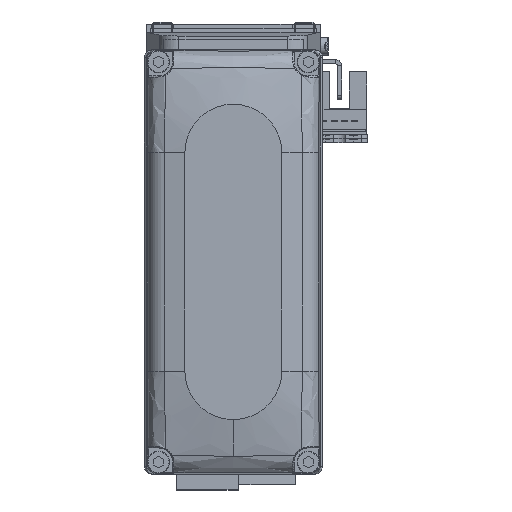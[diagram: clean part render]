
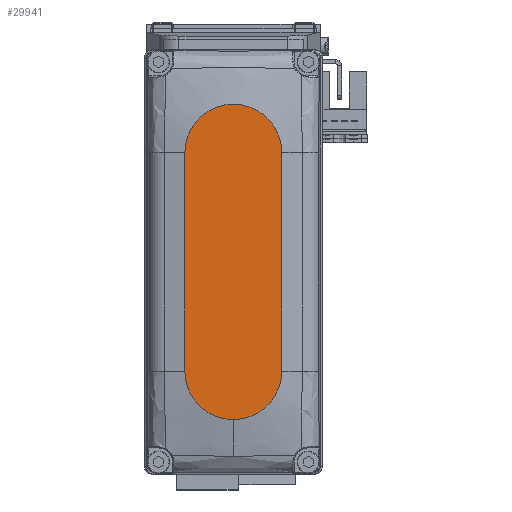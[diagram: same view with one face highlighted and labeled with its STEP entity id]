
A CAD part, top view. The second image highlights one B-rep face of the part: STEP entity #29941.
In plain terms, the highlighted planar face has unit normal (0, 0, 1).
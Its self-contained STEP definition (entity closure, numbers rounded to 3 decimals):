
#998 = CIRCLE ( 'NONE', #23631, 12. ) ;
#1161 = DIRECTION ( 'NONE',  ( 1., 0., 0. ) ) ;
#1725 = AXIS2_PLACEMENT_3D ( 'NONE', #16550, #28883, #1161 ) ;
#2232 = AXIS2_PLACEMENT_3D ( 'NONE', #3722, #16062, #28399 ) ;
#2779 = AXIS2_PLACEMENT_3D ( 'NONE', #18756, #31095, #3379 ) ;
#3379 = DIRECTION ( 'NONE',  ( 1., 0., 0. ) ) ;
#3550 = ORIENTED_EDGE ( 'NONE', *, *, #33803, .T. ) ;
#3722 = CARTESIAN_POINT ( 'NONE',  ( 0., 0., 25. ) ) ;
#4266 = LINE ( 'NONE', #16609, #15287 ) ;
#5441 = CARTESIAN_POINT ( 'NONE',  ( 27., 12., 25. ) ) ;
#6303 = ORIENTED_EDGE ( 'NONE', *, *, #27208, .T. ) ;
#7059 = CARTESIAN_POINT ( 'NONE',  ( 27., -12., 25. ) ) ;
#7608 = DIRECTION ( 'NONE',  ( 0., 0., 1. ) ) ;
#7611 = ORIENTED_EDGE ( 'NONE', *, *, #28136, .T. ) ;
#8633 = LINE ( 'NONE', #20985, #30778 ) ;
#12175 = EDGE_LOOP ( 'NONE', ( #3550, #34932, #7611, #6303, #17281 ) ) ;
#12835 = VERTEX_POINT ( 'NONE', #5441 ) ;
#15287 = VECTOR ( 'NONE', #28936, 1000. ) ;
#16062 = DIRECTION ( 'NONE',  ( 0., 0., 1. ) ) ;
#16550 = CARTESIAN_POINT ( 'NONE',  ( 27., 0., 25. ) ) ;
#16609 = CARTESIAN_POINT ( 'NONE',  ( -27., 12., 25. ) ) ;
#17281 = ORIENTED_EDGE ( 'NONE', *, *, #36662, .T. ) ;
#18756 = CARTESIAN_POINT ( 'NONE',  ( -27., 0., 25. ) ) ;
#19108 = FACE_OUTER_BOUND ( 'NONE', #12175, .T. ) ;
#19172 = CIRCLE ( 'NONE', #1725, 12. ) ;
#19248 = CARTESIAN_POINT ( 'NONE',  ( -27., -12., 25. ) ) ;
#19625 = VERTEX_POINT ( 'NONE', #31719 ) ;
#19942 = DIRECTION ( 'NONE',  ( 1., 0., 0. ) ) ;
#20246 = CIRCLE ( 'NONE', #2779, 12. ) ;
#20985 = CARTESIAN_POINT ( 'NONE',  ( -27., -12., 25. ) ) ;
#22369 = EDGE_CURVE ( 'NONE', #19625, #29134, #20246, .T. ) ;
#23631 = AXIS2_PLACEMENT_3D ( 'NONE', #35310, #7608, #19942 ) ;
#25756 = CARTESIAN_POINT ( 'NONE',  ( 39., 0., 25. ) ) ;
#27208 = EDGE_CURVE ( 'NONE', #39389, #28718, #998, .T. ) ;
#28136 = EDGE_CURVE ( 'NONE', #29134, #39389, #8633, .T. ) ;
#28399 = DIRECTION ( 'NONE',  ( 1., 0., 0. ) ) ;
#28718 = VERTEX_POINT ( 'NONE', #25756 ) ;
#28883 = DIRECTION ( 'NONE',  ( 0., 0., 1. ) ) ;
#28936 = DIRECTION ( 'NONE',  ( -1., 0., 0. ) ) ;
#29134 = VERTEX_POINT ( 'NONE', #19248 ) ;
#29941 = ADVANCED_FACE ( 'NONE', ( #19108 ), #31440, .T. ) ;
#30778 = VECTOR ( 'NONE', #33304, 1000. ) ;
#31095 = DIRECTION ( 'NONE',  ( 0., 0., 1. ) ) ;
#31440 = PLANE ( 'NONE',  #2232 ) ;
#31719 = CARTESIAN_POINT ( 'NONE',  ( -27., 12., 25. ) ) ;
#33304 = DIRECTION ( 'NONE',  ( 1., 0., 0. ) ) ;
#33803 = EDGE_CURVE ( 'NONE', #12835, #19625, #4266, .T. ) ;
#34932 = ORIENTED_EDGE ( 'NONE', *, *, #22369, .T. ) ;
#35310 = CARTESIAN_POINT ( 'NONE',  ( 27., 0., 25. ) ) ;
#36662 = EDGE_CURVE ( 'NONE', #28718, #12835, #19172, .T. ) ;
#39389 = VERTEX_POINT ( 'NONE', #7059 ) ;
